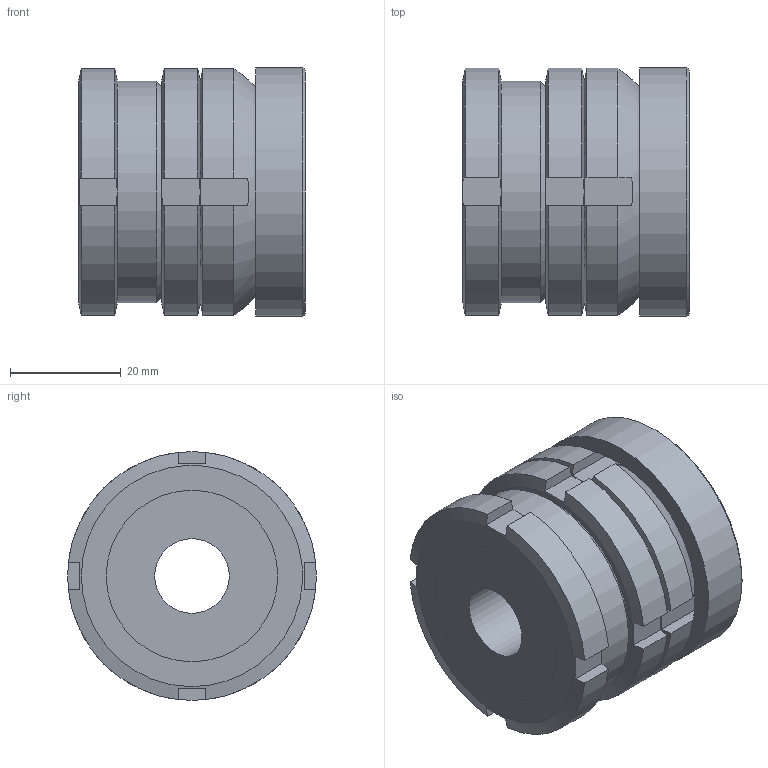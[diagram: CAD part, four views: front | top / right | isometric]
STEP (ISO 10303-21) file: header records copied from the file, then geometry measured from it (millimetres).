
FILE_DESCRIPTION( ( 'STEP AP203' ), '1' );
FILE_NAME( 'C:/Temp/Ganter_Step_05_03_2020/data/3_2/gn350_5/gn350_5_st/Levelling set GN 350.5-45-13,5-41-ST (0-0).stp', '2020-03-13T05:28:29', ( 'License CC BY-ND 4.0' ), ( 'CADENAS' ), ' ', 'PARTsolutions', ' ' );
FILE_SCHEMA( ( 'CONFIG_CONTROL_DESIGN' ) );
Length unit declared in the file: millimetre
Products named in the file (5): Levelling set GN 350.5-45-13,5-41-ST (0-0); _Levelling set GN 350.5-45-13,5-41-ST-G; _Levelling set GN 350.5-45-13,5-41-ST-K; _Levelling set GN 350.5-45-13,5-41-ST-P(0); _Levelling set GN 350.5-45-13,5-41-ST-KM
Assembly tree (4 placements, depth 2):
  Levelling set GN 350.5-45-13,5-41-ST (0-0)
    _Levelling set GN 350.5-45-13,5-41-ST-G
    _Levelling set GN 350.5-45-13,5-41-ST-K
    _Levelling set GN 350.5-45-13,5-41-ST-P(0)
    _Levelling set GN 350.5-45-13,5-41-ST-KM
Bounding box: 41 x 45 x 45 mm (x, y, z)
Volume: 53673.8 mm3; surface area: 21023.3 mm2
Topology: 4 solids, 4 shells, 85 faces, 211 edges, 140 vertices
Faces by surface type: plane 50, cylinder 24, cone 9, sphere 2
Full cylindrical faces by diameter (mm): 13.5 x1, 22 x1, 24.492 x1, 25.5 x1, 28.376 x1, 28.917 x1, 30 x2, 31 x2, 40 x1, 45 x1
Entity records: 2696 total; most frequent: CARTESIAN_POINT 698, DIRECTION 368, ORIENTED_EDGE 356, EDGE_CURVE 178, AXIS2_PLACEMENT_3D 160, VERTEX_POINT 130, EDGE_LOOP 122, FACE_OUTER_BOUND 99
